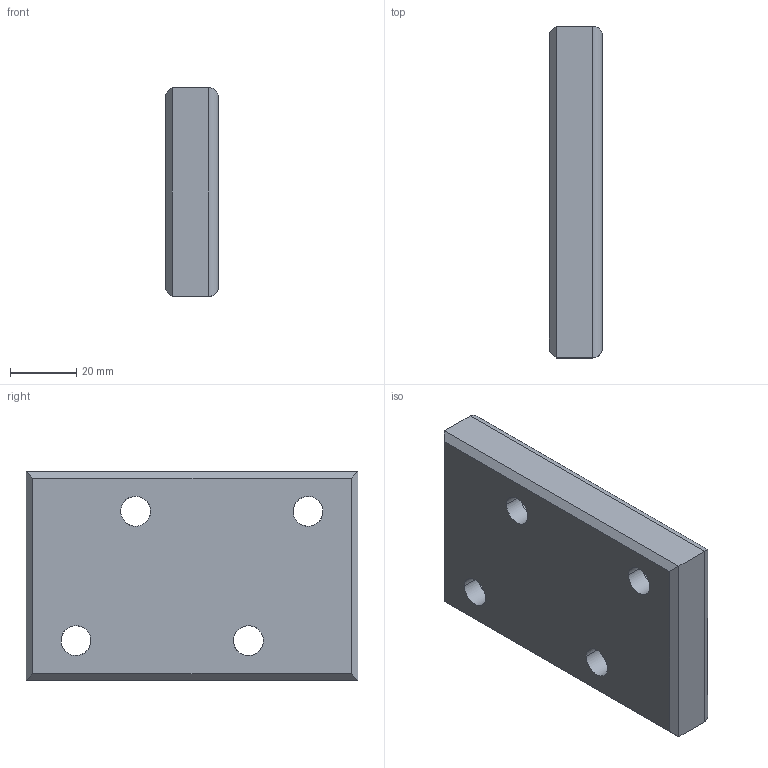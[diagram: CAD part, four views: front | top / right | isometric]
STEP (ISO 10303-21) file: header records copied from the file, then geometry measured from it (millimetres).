
FILE_DESCRIPTION (( 'STEP AP214' ), '1' );
FILE_NAME ('SW224-09-63x100.STEP', '2020-10-20T08:55:48', ( 'August' ), ( '' ), 'SwSTEP 2.0', 'SolidWorks 2018', '' );
FILE_SCHEMA (( 'AUTOMOTIVE_DESIGN' ));
Length unit declared in the file: millimetre
Products named in the file (1): SW224-09-63x100
Bounding box: 16 x 100 x 63 mm (x, y, z)
Volume: 81982.8 mm3; surface area: 24325.8 mm2
Topology: 1 solids, 1 shells, 165 faces, 346 edges, 224 vertices
Faces by surface type: cylinder 102, plane 55, cone 8
Entity records: 8271 total; most frequent: CARTESIAN_POINT 4907, ORIENTED_EDGE 692, B_SPLINE_CURVE_WITH_KNOTS 346, EDGE_CURVE 346, DIRECTION 332, VERTEX_POINT 224, EDGE_LOOP 214, AXIS2_PLACEMENT_3D 166
